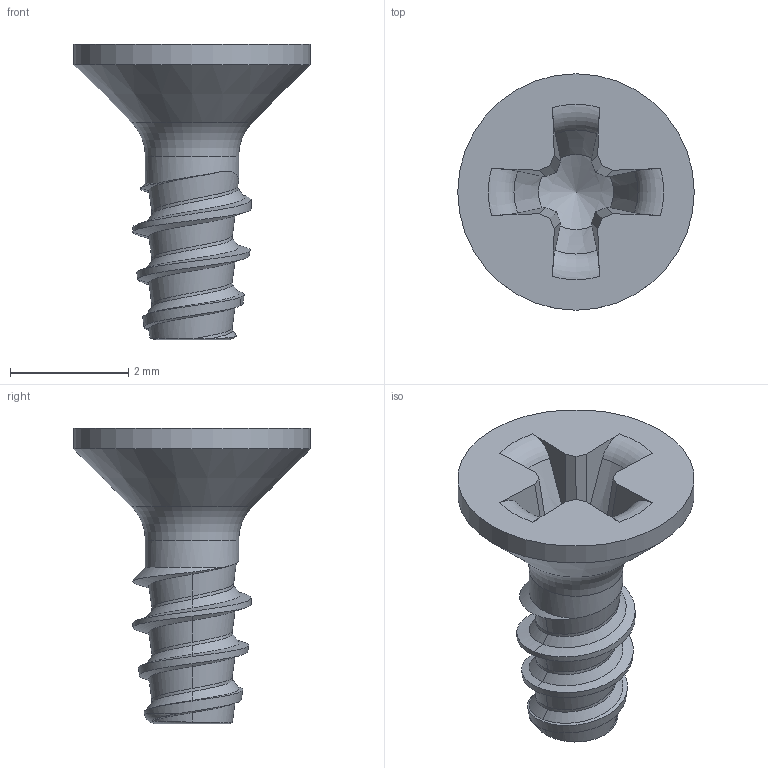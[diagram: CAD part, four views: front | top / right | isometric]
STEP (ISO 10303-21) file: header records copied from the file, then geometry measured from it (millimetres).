
FILE_DESCRIPTION(/* description */ (''),/* implementation_level */ '2;1');
FILE_NAME(/* name */ 'KN6041-STSplus-20x5-H1.step',/* time_stamp */ '2017-10-12T11:19:39+02:00',/* author */ (''),/* organization */ (''),/* preprocessor_version */ 'ST-DEVELOPER v16',/* originating_system */ 'SIEMENS PLM Software NX 10.0',/* authorisation */ '');
FILE_SCHEMA (('AUTOMOTIVE_DESIGN { 1 0 10303 214 3 1 1 1 }'));
Length unit declared in the file: millimetre
Products named in the file (1): KN6041-STSplus-20x5-H1
Bounding box: 4 x 4 x 5 mm (x, y, z)
Volume: 16.5 mm3; surface area: 60.9 mm2
Topology: 1 solids, 1 shells, 56 faces, 151 edges, 97 vertices
Faces by surface type: plane 19, bspline 19, cone 8, torus 6, cylinder 4
Full cylindrical faces by diameter (mm): 1.58 x1, 4 x1
Entity records: 2788 total; most frequent: CARTESIAN_POINT 1605, ORIENTED_EDGE 280, DIRECTION 162, EDGE_CURVE 140, VERTEX_POINT 93, B_SPLINE_CURVE_WITH_KNOTS 76, EDGE_LOOP 62, AXIS2_PLACEMENT_3D 60
